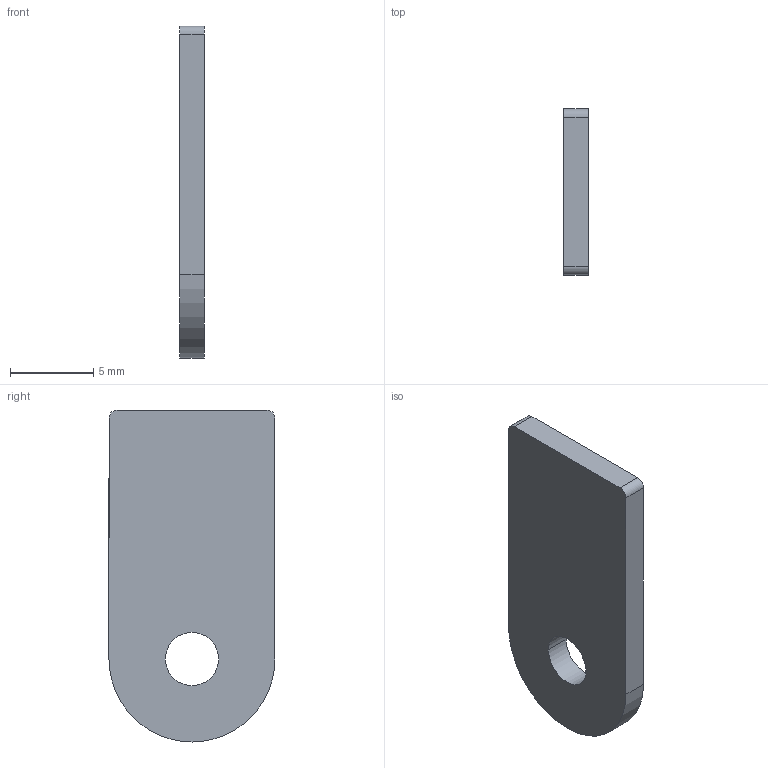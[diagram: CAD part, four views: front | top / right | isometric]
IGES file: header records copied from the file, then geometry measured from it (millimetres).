
Start section: START RECORD GO HERE.
Global section: file name: 20M_EL_04007 (chape tdb haut).igs; native system: IBM CATIA IGES - CATIA Version 5 Release 19 ; preprocessor: CATIA Version 5 Release 19 ; author: mik75; organization: LAPTOP-SUH344G9; date: 20200123.190440; units: millimetre
Bounding box: 1.5 x 10 x 20 mm (x, y, z)
Surface area: 460.2 mm2 (no closed solid volume)
Topology: 0 solids, 0 shells, 10 faces, 48 edges, 48 vertices
Faces by surface type: revolution 5, plane 5
